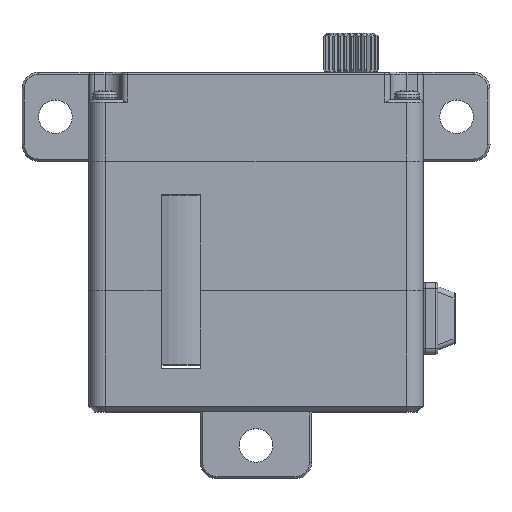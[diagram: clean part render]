
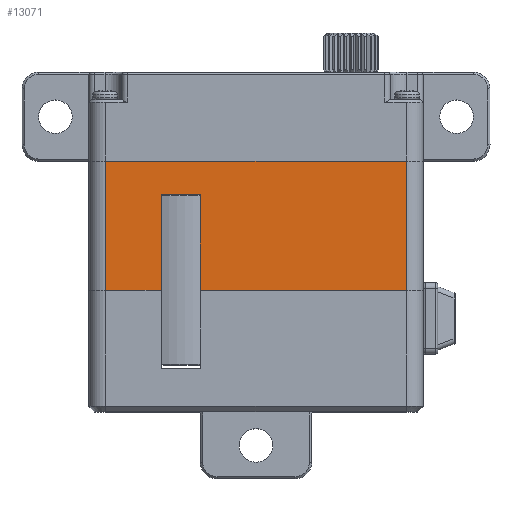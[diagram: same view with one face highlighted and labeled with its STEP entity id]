
A CAD part, top view. The second image highlights one B-rep face of the part: STEP entity #13071.
In plain terms, the highlighted planar face has unit normal (0, 0, 1).
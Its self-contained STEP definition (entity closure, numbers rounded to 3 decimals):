
#1237=DIRECTION('',(1.,0.,0.));
#1238=VECTOR('',#1237,4.99);
#1239=CARTESIAN_POINT('',(-13.5,-11.59,5.));
#1240=LINE('',#1239,#1238);
#1241=DIRECTION('',(0.,1.,0.));
#1242=VECTOR('',#1241,11.58);
#1243=CARTESIAN_POINT('',(-13.5,-11.59,5.));
#1244=LINE('',#1243,#1242);
#1245=DIRECTION('',(1.,0.,0.));
#1246=VECTOR('',#1245,27.);
#1247=CARTESIAN_POINT('',(-13.5,-0.01,5.));
#1248=LINE('',#1247,#1246);
#1249=DIRECTION('',(0.,-1.,0.));
#1250=VECTOR('',#1249,11.58);
#1251=CARTESIAN_POINT('',(13.5,-0.01,5.));
#1252=LINE('',#1251,#1250);
#1253=DIRECTION('',(1.,0.,0.));
#1254=VECTOR('',#1253,18.51);
#1255=CARTESIAN_POINT('',(-5.01,-11.59,5.));
#1256=LINE('',#1255,#1254);
#1257=DIRECTION('',(1.,0.,0.));
#1258=VECTOR('',#1257,3.5);
#1259=CARTESIAN_POINT('',(-8.51,-3.,5.));
#1260=LINE('',#1259,#1258);
#5952=DIRECTION('',(0.,1.,0.));
#5953=VECTOR('',#5952,8.59);
#5954=CARTESIAN_POINT('',(-8.51,-11.59,5.));
#5955=LINE('',#5954,#5953);
#6036=DIRECTION('',(0.,-1.,0.));
#6037=VECTOR('',#6036,8.59);
#6038=CARTESIAN_POINT('',(-5.01,-3.,5.));
#6039=LINE('',#6038,#6037);
#9584=CARTESIAN_POINT('',(-8.51,-3.,5.));
#9585=CARTESIAN_POINT('',(-5.01,-3.,5.));
#9586=VERTEX_POINT('',#9584);
#9587=VERTEX_POINT('',#9585);
#11285=CARTESIAN_POINT('',(-13.5,-0.01,5.));
#11286=CARTESIAN_POINT('',(13.5,-0.01,5.));
#11287=VERTEX_POINT('',#11285);
#11288=VERTEX_POINT('',#11286);
#11361=CARTESIAN_POINT('',(-13.5,-11.59,5.));
#11362=CARTESIAN_POINT('',(-8.51,-11.59,5.));
#11363=VERTEX_POINT('',#11361);
#11364=VERTEX_POINT('',#11362);
#11365=CARTESIAN_POINT('',(-5.01,-11.59,5.));
#11366=CARTESIAN_POINT('',(13.5,-11.59,5.));
#11367=VERTEX_POINT('',#11365);
#11368=VERTEX_POINT('',#11366);
#13052=CARTESIAN_POINT('',(-15.,0.,5.));
#13053=DIRECTION('',(0.,0.,1.));
#13054=DIRECTION('',(1.,0.,0.));
#13055=AXIS2_PLACEMENT_3D('',#13052,#13053,#13054);
#13056=PLANE('',#13055);
#13057=ORIENTED_EDGE('',*,*,#12766,.F.);
#13058=ORIENTED_EDGE('',*,*,#12855,.T.);
#13059=ORIENTED_EDGE('',*,*,#11799,.T.);
#13061=ORIENTED_EDGE('',*,*,#13060,.T.);
#13062=ORIENTED_EDGE('',*,*,#12792,.F.);
#13064=ORIENTED_EDGE('',*,*,#13063,.F.);
#13066=ORIENTED_EDGE('',*,*,#13065,.F.);
#13068=ORIENTED_EDGE('',*,*,#13067,.F.);
#13069=EDGE_LOOP('',(#13057,#13058,#13059,#13061,#13062,#13064,#13066,#13068));
#13070=FACE_OUTER_BOUND('',#13069,.F.);
#11799=EDGE_CURVE('',#11287,#11288,#1248,.T.);
#12766=EDGE_CURVE('',#11363,#11364,#1240,.T.);
#12792=EDGE_CURVE('',#11367,#11368,#1256,.T.);
#12855=EDGE_CURVE('',#11363,#11287,#1244,.T.);
#13060=EDGE_CURVE('',#11288,#11368,#1252,.T.);
#13063=EDGE_CURVE('',#9587,#11367,#6039,.T.);
#13065=EDGE_CURVE('',#9586,#9587,#1260,.T.);
#13067=EDGE_CURVE('',#11364,#9586,#5955,.T.);
#13071=ADVANCED_FACE('',(#13070),#13056,.T.);
